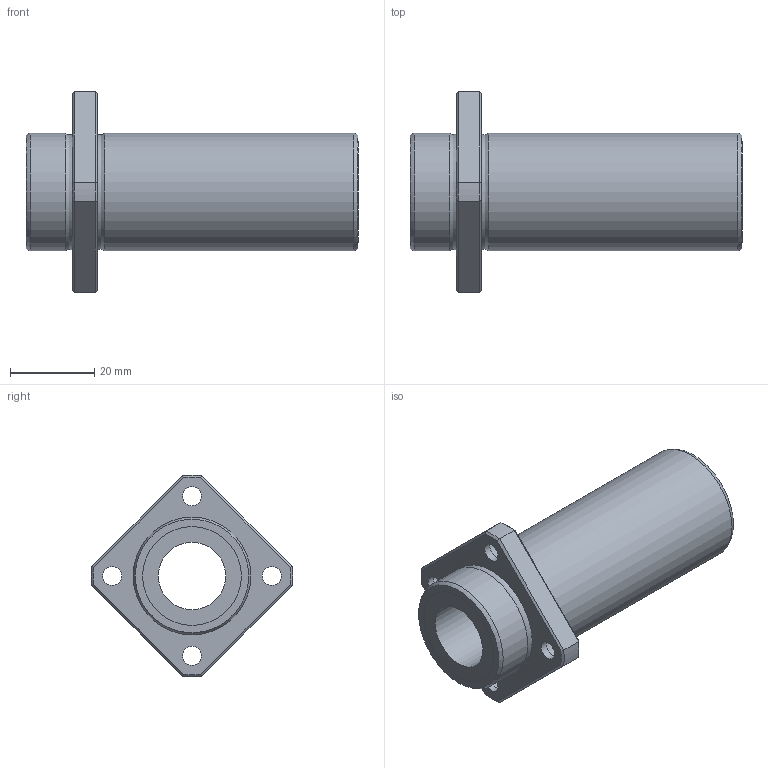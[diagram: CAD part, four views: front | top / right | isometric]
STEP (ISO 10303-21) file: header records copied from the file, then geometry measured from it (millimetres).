
FILE_DESCRIPTION((''),'2;1');
FILE_NAME('D:\製品 (図面)\カタログ用3D\メンテナンスフリー関連\STEP形式\LFDKB-MF\LFDKB16MF.stp','2010-06-01T15:40:41',('Tsuchiya'),(''),'Autodesk Inventor 10','Autodesk Inventor 10','');
FILE_SCHEMA(('AUTOMOTIVE_DESIGN { 1 0 10303 214 1 1 1 1 }'));
Length unit declared in the file: millimetre
Products named in the file (1): LFDKB16MF
Bounding box: 79 x 47.98 x 47.98 mm (x, y, z)
Volume: 35981.7 mm3; surface area: 13843 mm2
Topology: 1 solids, 1 shells, 51 faces, 103 edges, 62 vertices
Faces by surface type: plane 18, bspline 14, cylinder 9, cone 8, torus 2
Full cylindrical faces by diameter (mm): 16 x1, 23.5 x2, 28 x2
Entity records: 1517 total; most frequent: CARTESIAN_POINT 520, DIRECTION 192, ORIENTED_EDGE 172, EDGE_CURVE 86, EDGE_LOOP 86, AXIS2_PLACEMENT_3D 84, VERTEX_POINT 62, FACE_OUTER_BOUND 51
